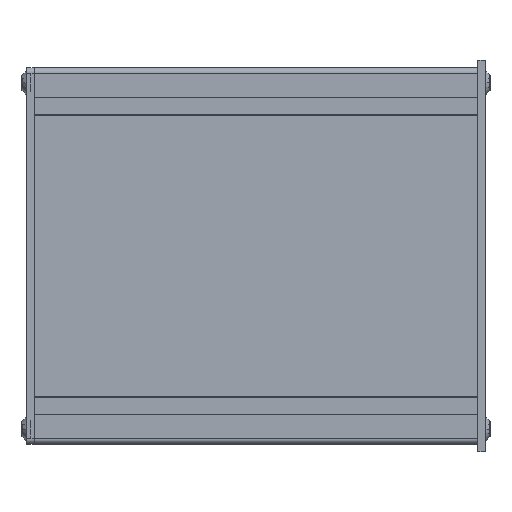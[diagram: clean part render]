
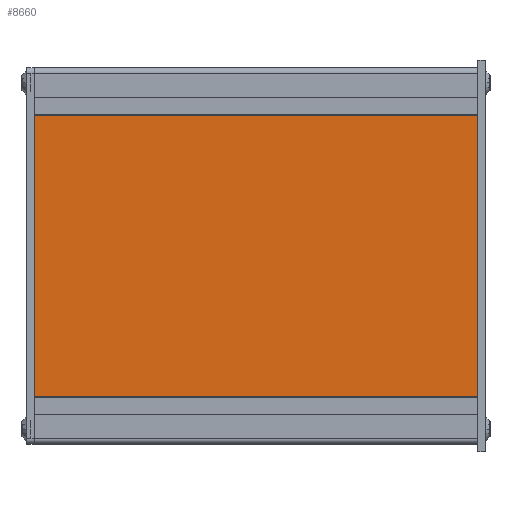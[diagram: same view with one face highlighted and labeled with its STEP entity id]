
A CAD part, left-side view. The second image highlights one B-rep face of the part: STEP entity #8660.
In plain terms, the highlighted planar face has unit normal (-1, 0, 0).
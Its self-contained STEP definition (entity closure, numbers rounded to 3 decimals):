
#952=PLANE('',#9524);
#1250=FACE_OUTER_BOUND('',#1790,.T.);
#1790=EDGE_LOOP('',(#6637,#6638,#6639,#6640));
#2564=LINE('',#13700,#3252);
#2574=LINE('',#13721,#3262);
#2575=LINE('',#13723,#3263);
#2576=LINE('',#13724,#3264);
#3252=VECTOR('',#10976,10.);
#3262=VECTOR('',#10994,10.);
#3263=VECTOR('',#10995,10.);
#3264=VECTOR('',#10996,10.);
#4260=VERTEX_POINT('',#13693);
#4263=VERTEX_POINT('',#13698);
#4270=VERTEX_POINT('',#13720);
#4271=VERTEX_POINT('',#13722);
#5115=EDGE_CURVE('',#4260,#4263,#2564,.T.);
#5125=EDGE_CURVE('',#4260,#4270,#2574,.T.);
#5126=EDGE_CURVE('',#4271,#4263,#2575,.T.);
#5127=EDGE_CURVE('',#4270,#4271,#2576,.T.);
#6637=ORIENTED_EDGE('',*,*,#5125,.F.);
#6638=ORIENTED_EDGE('',*,*,#5115,.T.);
#6639=ORIENTED_EDGE('',*,*,#5126,.F.);
#6640=ORIENTED_EDGE('',*,*,#5127,.F.);
#8660=ADVANCED_FACE('',(#1250),#952,.T.);
#9524=AXIS2_PLACEMENT_3D('',#13719,#10992,#10993);
#10976=DIRECTION('',(0.,1.,0.));
#10992=DIRECTION('center_axis',(-1.,0.,0.));
#10993=DIRECTION('ref_axis',(0.,0.,1.));
#10994=DIRECTION('',(0.,0.,-1.));
#10995=DIRECTION('',(0.,0.,1.));
#10996=DIRECTION('',(0.,1.,0.));
#13693=CARTESIAN_POINT('',(239.,0.,3.55));
#13698=CARTESIAN_POINT('',(239.,150.,3.55));
#13700=CARTESIAN_POINT('',(239.,0.,3.55));
#13719=CARTESIAN_POINT('Origin',(239.,0.,-91.65));
#13720=CARTESIAN_POINT('',(239.,0.,-91.65));
#13721=CARTESIAN_POINT('',(239.,0.,-44.05));
#13722=CARTESIAN_POINT('',(239.,150.,-91.65));
#13723=CARTESIAN_POINT('',(239.,150.,-44.05));
#13724=CARTESIAN_POINT('',(239.,0.,-91.65));
